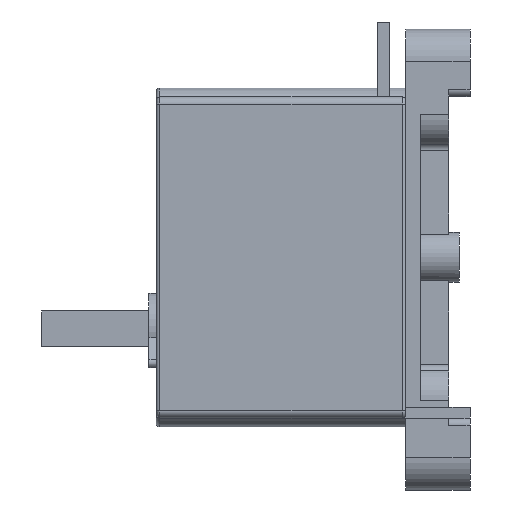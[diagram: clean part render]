
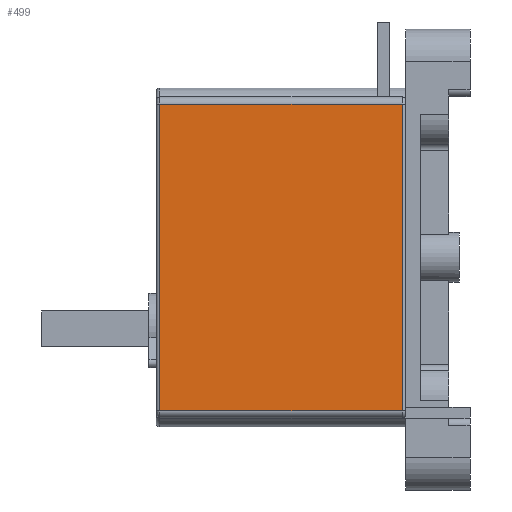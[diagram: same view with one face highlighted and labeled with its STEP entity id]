
A CAD part, left-side view. The second image highlights one B-rep face of the part: STEP entity #499.
In plain terms, the highlighted planar face has unit normal (-1, 0, 0).
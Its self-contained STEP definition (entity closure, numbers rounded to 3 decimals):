
#157=PLANE('',#4264);
#499=ADVANCED_FACE('',(#752),#157,.F.);
#752=FACE_OUTER_BOUND('',#1025,.T.);
#1025=EDGE_LOOP('',(#2614,#2615,#2616,#2617));
#1200=LINE('',#5842,#1532);
#1360=LINE('',#6602,#1692);
#1367=LINE('',#6654,#1699);
#1368=LINE('',#6656,#1700);
#1532=VECTOR('',#4670,1.);
#1692=VECTOR('',#5330,1.);
#1699=VECTOR('',#5355,1.);
#1700=VECTOR('',#5358,1.);
#2614=ORIENTED_EDGE('',*,*,#3671,.F.);
#2615=ORIENTED_EDGE('',*,*,#3657,.T.);
#2616=ORIENTED_EDGE('',*,*,#3672,.T.);
#2617=ORIENTED_EDGE('',*,*,#3350,.T.);
#2939=VERTEX_POINT('',#5832);
#2943=VERTEX_POINT('',#5841);
#3145=VERTEX_POINT('',#6569);
#3149=VERTEX_POINT('',#6601);
#3350=EDGE_CURVE('',#2939,#2943,#1200,.T.);
#3657=EDGE_CURVE('',#3145,#3149,#1360,.T.);
#3671=EDGE_CURVE('',#3145,#2943,#1367,.T.);
#3672=EDGE_CURVE('',#3149,#2939,#1368,.T.);
#4264=AXIS2_PLACEMENT_3D('',#6657,#5359,#5360);
#4670=DIRECTION('',(0.,0.,1.));
#5330=DIRECTION('',(0.,0.,-1.));
#5355=DIRECTION('',(0.,-1.,0.));
#5358=DIRECTION('',(0.,-1.,0.));
#5359=DIRECTION('',(1.,0.,0.));
#5360=DIRECTION('',(0.,0.,-1.));
#5832=CARTESIAN_POINT('',(-41.,1.,-43.));
#5841=CARTESIAN_POINT('',(-41.,1.,43.));
#5842=CARTESIAN_POINT('',(-41.,1.,-43.));
#6569=CARTESIAN_POINT('',(-41.,69.,43.));
#6601=CARTESIAN_POINT('',(-41.,69.,-43.));
#6602=CARTESIAN_POINT('',(-41.,69.,-43.));
#6654=CARTESIAN_POINT('',(-41.,35.,43.));
#6656=CARTESIAN_POINT('',(-41.,35.,-43.));
#6657=CARTESIAN_POINT('',(-41.,35.,-43.));
